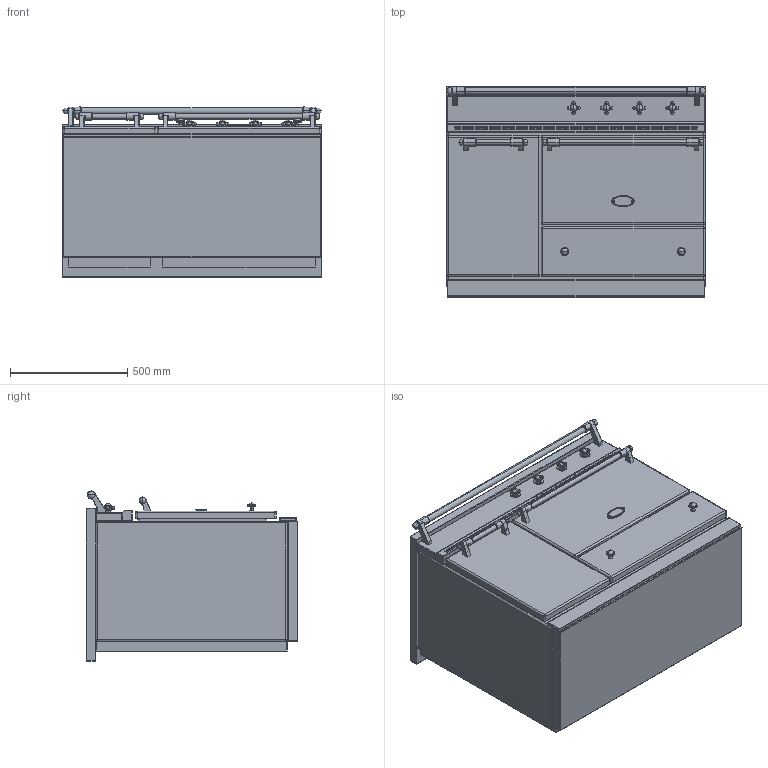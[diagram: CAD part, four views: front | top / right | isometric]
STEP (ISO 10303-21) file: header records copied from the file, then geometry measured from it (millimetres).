
FILE_DESCRIPTION((''),'2;1');
FILE_NAME('LVI1131_CHASSAGNE_ASM','2014-07-29T',('r.avril'),(''),'PRO/ENGINEER BY PARAMETRIC TECHNOLOGY CORPORATION, 2014090','PRO/ENGINEER BY PARAMETRIC TECHNOLOGY CORPORATION, 2014090','');
FILE_SCHEMA(('AP203_CONFIGURATION_CONTROLLED_3D_DESIGN_OF_MECHANICAL_PARTS_AND_ASSEMBLIES_MIM_LF { 1 0 10303 403 2 1 2 }'));
Products named in the file (17): BASE_EXPORT_CHASSAGNE_LVI1131; 65650003; 65650004; 6531940; 6531941; 6531943; 65049009; 65650001; 6538399; 1931942; 6518450; 6531942_ASM; BASE_EXPORT_CHASSAGNE_LVI1131_ASM; TABLE_1100G_INDUCTION_ET_VTR; 65052012; TABLE_1100G_INDUCTION_ASM; LVI1131_CHASSAGNE_ASM
Assembly tree (22 placements, depth 4):
  LVI1131_CHASSAGNE_ASM
    BASE_EXPORT_CHASSAGNE_LVI1131_ASM
      BASE_EXPORT_CHASSAGNE_LVI1131
      65650003
      65650004
      6531940  x2
      6531941  x2
      6531943  x2
      65049009
      65650001
      6531942_ASM  x4
        6538399
        1931942
        6518450
    TABLE_1100G_INDUCTION_ASM
      TABLE_1100G_INDUCTION_ET_VTR
      65052012
Bounding box: 1105 x 900.68 x 724 mm (x, y, z)
Volume: 577396615.4 mm3; surface area: 8963936.5 mm2
Topology: 28 solids, 36 shells, 2672 faces, 7191 edges, 4790 vertices
Faces by surface type: plane 1442, cylinder 744, torus 142, sphere 130, extrusion 114, cone 50, bspline 38, revolution 12
Entity records: 71957 total; most frequent: CARTESIAN_POINT 13434, DIRECTION 9349, ORIENTED_EDGE 8024, EDGE_CURVE 4022, AXIS2_PLACEMENT_3D 3138, VECTOR 3014, LINE 2984, PRESENTATION_STYLE_ASSIGNMENT 2731
